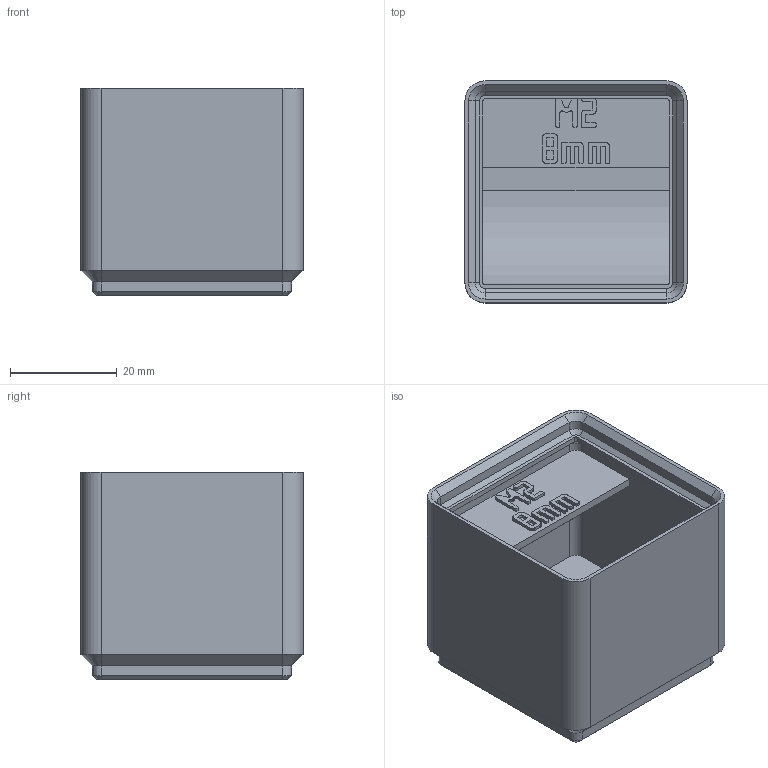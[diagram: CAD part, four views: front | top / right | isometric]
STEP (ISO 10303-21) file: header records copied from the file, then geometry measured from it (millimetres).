
FILE_DESCRIPTION(('Open CASCADE Model'),'2;1');
FILE_NAME('Open CASCADE Shape Model','2026-11-03T10:23:01',('Author'),( 'Open CASCADE'),'Open CASCADE STEP processor 8.0','build123d', 'Unknown');
FILE_SCHEMA(('AUTOMOTIVE_DESIGN { 1 0 10303 214 1 1 1 1 }'));
Length unit declared in the file: millimetre
Products named in the file (1): COMPOUND
Bounding box: 41.5 x 41.5 x 38.8 mm (x, y, z)
Volume: 28173.7 mm3; surface area: 14236.1 mm2
Topology: 1 solids, 1 shells, 573 faces, 1630 edges, 1068 vertices
Faces by surface type: plane 530, cylinder 23, cone 20
Entity records: 38448 total; most frequent: CARTESIAN_POINT 7924, DIRECTION 4922, LINE 3646, VECTOR 3646, ORIENTED_EDGE 3260, PCURVE 3260, DEFINITIONAL_REPRESENTATION 3260, EDGE_CURVE 1630
